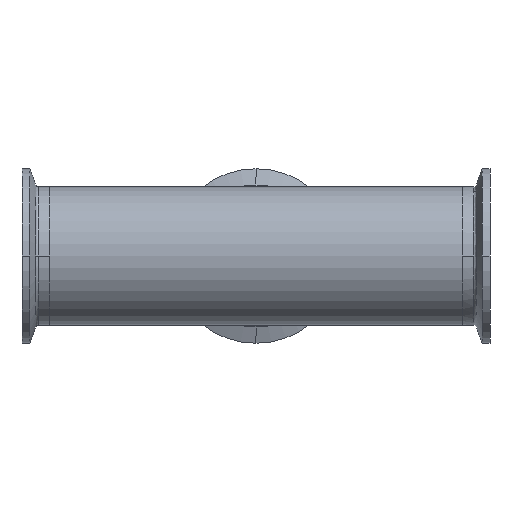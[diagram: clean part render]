
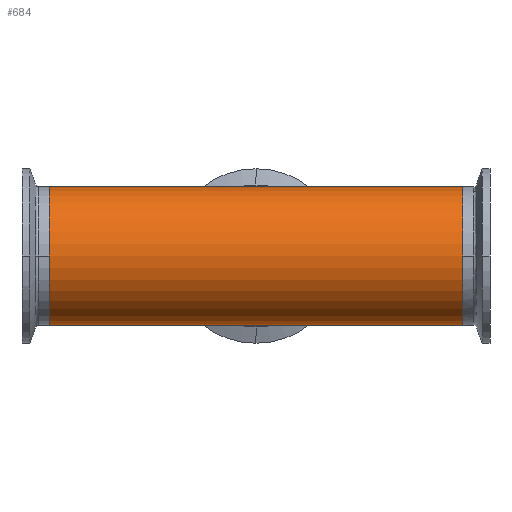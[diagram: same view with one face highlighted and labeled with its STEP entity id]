
A CAD part, front view. The second image highlights one B-rep face of the part: STEP entity #684.
In plain terms, the highlighted cylindrical face has radius 25.4 mm (diameter 50.8 mm), a partial arc.
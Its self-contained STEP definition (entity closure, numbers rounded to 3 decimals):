
#143 = EDGE_CURVE ( 'NONE', #4597, #281, #4988, .T. ) ;
#281 = VERTEX_POINT ( 'NONE', #4056 ) ;
#337 = CARTESIAN_POINT ( 'NONE',  ( 147.542, 0., -25.4 ) ) ;
#379 = CARTESIAN_POINT ( 'NONE',  ( 0., 0., -25.4 ) ) ;
#407 = AXIS2_PLACEMENT_3D ( 'NONE', #3362, #2875, #1053 ) ;
#488 = EDGE_CURVE ( 'NONE', #5850, #3649, #2723, .T. ) ;
#684 = ADVANCED_FACE ( 'NONE', ( #6023 ), #2289, .T. ) ;
#730 = VERTEX_POINT ( 'NONE', #4286 ) ;
#940 = ORIENTED_EDGE ( 'NONE', *, *, #143, .T. ) ;
#1053 = DIRECTION ( 'NONE',  ( 0., 0., 1. ) ) ;
#1151 = ORIENTED_EDGE ( 'NONE', *, *, #2757, .T. ) ;
#1189 = DIRECTION ( 'NONE',  ( -1., 0., 0. ) ) ;
#1204 = CARTESIAN_POINT ( 'NONE',  ( 147.542, 0., -25.4 ) ) ;
#1340 = CARTESIAN_POINT ( 'NONE',  ( 75.7, 0., -25.4 ) ) ;
#1516 = EDGE_CURVE ( 'NONE', #3649, #730, #5477, .T. ) ;
#1733 = CIRCLE ( 'NONE', #3953, 25.4 ) ;
#1835 = EDGE_LOOP ( 'NONE', ( #2417, #2257, #4463, #940, #1151, #5341 ) ) ;
#2054 = EDGE_CURVE ( 'NONE', #5850, #3385, #4587, .T. ) ;
#2257 = ORIENTED_EDGE ( 'NONE', *, *, #2054, .T. ) ;
#2289 = CYLINDRICAL_SURFACE ( 'NONE', #407, 25.4 ) ;
#2396 = CARTESIAN_POINT ( 'NONE',  ( 75.7, 0., 25.4 ) ) ;
#2417 = ORIENTED_EDGE ( 'NONE', *, *, #488, .F. ) ;
#2495 = CARTESIAN_POINT ( 'NONE',  ( 75.7, 0., 0. ) ) ;
#2598 = LINE ( 'NONE', #4490, #4927 ) ;
#2685 = CARTESIAN_POINT ( 'NONE',  ( -75.7, 0., 0. ) ) ;
#2723 = LINE ( 'NONE', #337, #3014 ) ;
#2757 = EDGE_CURVE ( 'NONE', #281, #730, #1733, .T. ) ;
#2875 = DIRECTION ( 'NONE',  ( -1., 0., 0. ) ) ;
#2965 = DIRECTION ( 'NONE',  ( 0., 0., 1. ) ) ;
#2985 = VECTOR ( 'NONE', #3562, 1000. ) ;
#3014 = VECTOR ( 'NONE', #1189, 1000. ) ;
#3168 = DIRECTION ( 'NONE',  ( 0., 0., 1. ) ) ;
#3362 = CARTESIAN_POINT ( 'NONE',  ( 147.542, 0., 0. ) ) ;
#3385 = VERTEX_POINT ( 'NONE', #2396 ) ;
#3562 = DIRECTION ( 'NONE',  ( -1., 0., 0. ) ) ;
#3581 = DIRECTION ( 'NONE',  ( -1., 0., 0. ) ) ;
#3649 = VERTEX_POINT ( 'NONE', #379 ) ;
#3953 = AXIS2_PLACEMENT_3D ( 'NONE', #2685, #5964, #3168 ) ;
#4056 = CARTESIAN_POINT ( 'NONE',  ( -75.7, 0., 25.4 ) ) ;
#4286 = CARTESIAN_POINT ( 'NONE',  ( -75.7, 0., -25.4 ) ) ;
#4400 = DIRECTION ( 'NONE',  ( -1., 0., 0. ) ) ;
#4463 = ORIENTED_EDGE ( 'NONE', *, *, #5775, .T. ) ;
#4490 = CARTESIAN_POINT ( 'NONE',  ( 147.542, 0., 25.4 ) ) ;
#4587 = CIRCLE ( 'NONE', #5762, 25.4 ) ;
#4597 = VERTEX_POINT ( 'NONE', #6057 ) ;
#4663 = CARTESIAN_POINT ( 'NONE',  ( 147.542, 0., 25.4 ) ) ;
#4844 = VECTOR ( 'NONE', #4400, 1000. ) ;
#4927 = VECTOR ( 'NONE', #3581, 1000. ) ;
#4988 = LINE ( 'NONE', #4663, #4844 ) ;
#5341 = ORIENTED_EDGE ( 'NONE', *, *, #1516, .F. ) ;
#5477 = LINE ( 'NONE', #1204, #2985 ) ;
#5762 = AXIS2_PLACEMENT_3D ( 'NONE', #2495, #5765, #2965 ) ;
#5765 = DIRECTION ( 'NONE',  ( -1., 0., 0. ) ) ;
#5775 = EDGE_CURVE ( 'NONE', #3385, #4597, #2598, .T. ) ;
#5850 = VERTEX_POINT ( 'NONE', #1340 ) ;
#5964 = DIRECTION ( 'NONE',  ( 1., 0., 0. ) ) ;
#6023 = FACE_OUTER_BOUND ( 'NONE', #1835, .T. ) ;
#6057 = CARTESIAN_POINT ( 'NONE',  ( 0., 0., 25.4 ) ) ;
